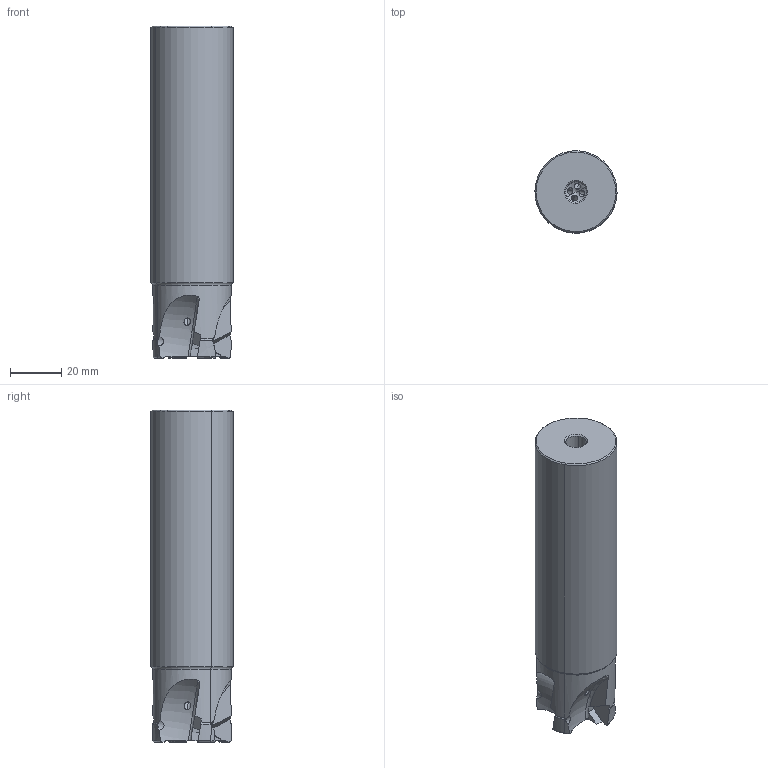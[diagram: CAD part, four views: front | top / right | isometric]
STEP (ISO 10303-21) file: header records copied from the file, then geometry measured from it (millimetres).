
FILE_DESCRIPTION(('CATIA V5 STEP'),'2;1');
FILE_NAME('I:\isr\design\admin8\users\yousef_k\3106418-D.stp','2012-11-18T09:12:11+00:00',('none'),('none'),'CATIA Version 5 Release 21 SP 3 (IN-10)','CATIA V5 STEP AP214','none');
FILE_SCHEMA(('AUTOMOTIVE_DESIGN { 1 0 10303 214 1 1 1 1 }'));
Length unit declared in the file: millimetre
Products named in the file (1): 61071146_0  HM390 ETP D32-4-C32-10
Bounding box: 31.99 x 31.99 x 129.4 mm (x, y, z)
Volume: 89734.8 mm3; surface area: 17661.4 mm2
Topology: 1 solids, 1 shells, 103 faces, 285 edges, 183 vertices
Faces by surface type: plane 30, torus 30, cylinder 22, cone 17, revolution 4
Entity records: 3586 total; most frequent: CARTESIAN_POINT 1334, ORIENTED_EDGE 566, DIRECTION 289, EDGE_CURVE 283, VERTEX_POINT 183, AXIS2_PLACEMENT_3D 152, B_SPLINE_CURVE_WITH_KNOTS 128, EDGE_LOOP 112
